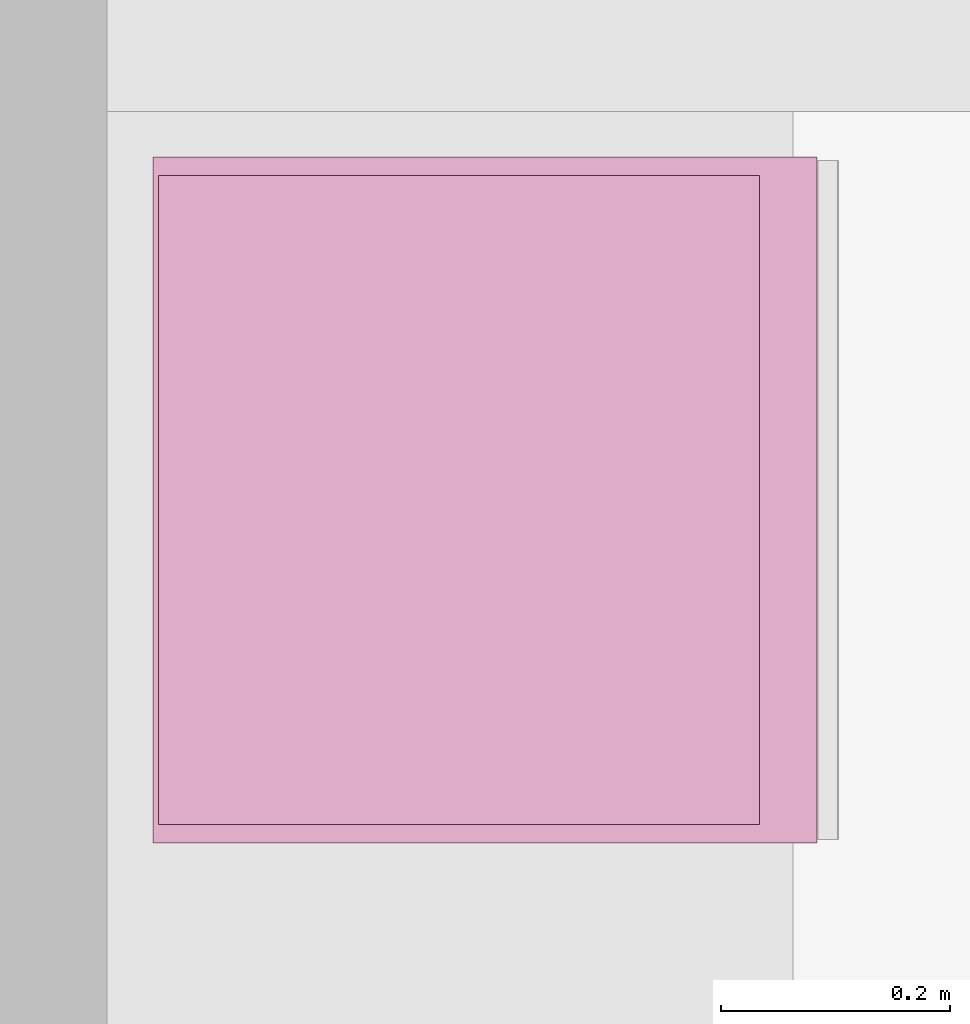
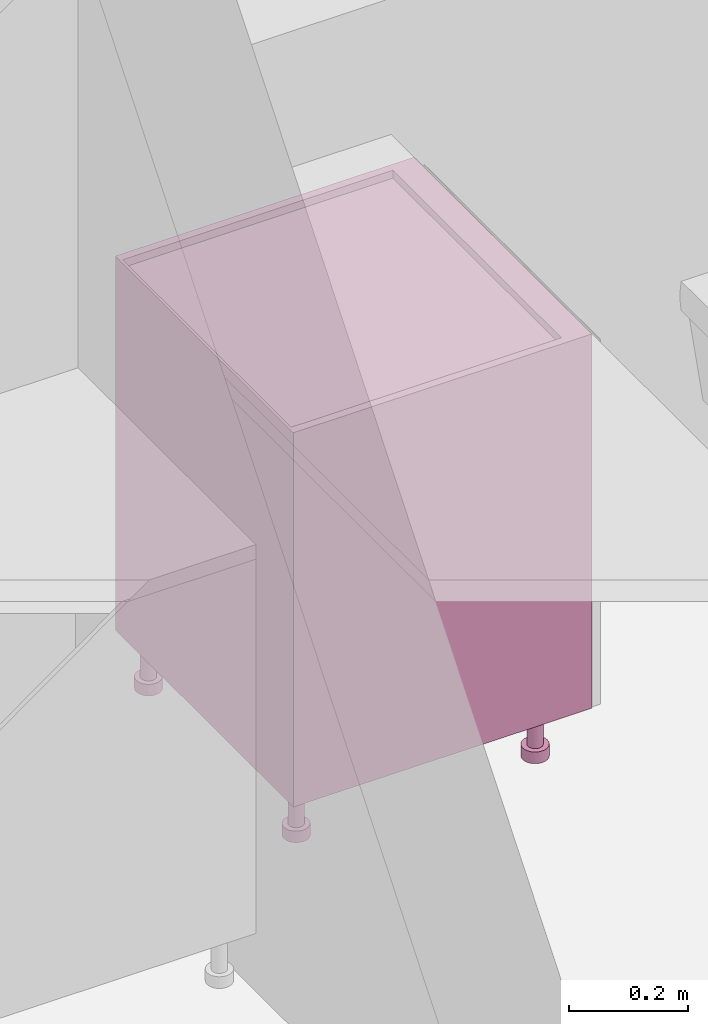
# One storey, part 70 of 125: 1 furnishing.
"""IFC2X3 building model written with IfcOpenShell, lengths in millimetres."""

from ifc_helpers import new_model, entity, si_unit, converted_unit, direction, frame, origin, place, context, subcontext, project, spatial, faceted_brep, source, transform, mapped, material, type_object, type_shapes, element, save


model = new_model("IFC2X3")

# Units and contexts
model_context = context("Model", 3, precision=0.01, world=origin(), true_north=direction((6.123233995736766e-17, 1.0)))
plan_context = context("Plan", 3, precision=0.01, world=origin(), true_north=direction((6.123233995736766e-17, 1.0)))
body_context = subcontext(model_context, "Body", "Model", "MODEL_VIEW")
ifc_project = project(units=[si_unit("LENGTHUNIT", "METRE", prefix="MILLI"), converted_unit("PLANEANGLEUNIT", "DEGREE", entity("IfcPlaneAngleMeasure", 0.017453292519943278), si_unit("PLANEANGLEUNIT", "RADIAN"), dimensions=[0, 0, 0, 0, 0, 0, 0]), si_unit("AREAUNIT", "SQUARE_METRE")], contexts=[model_context, plan_context])

# Site, building, storey, space
site_placement = place(None, origin())
site = spatial("IfcSite", under=ifc_project, at=site_placement, Name="Default", CompositionType="ELEMENT")
building_placement = place(site_placement, origin())
building = spatial("IfcBuilding", under=site, at=building_placement, CompositionType="ELEMENT")
storey_placement = place(building_placement, frame((0.0, 0.0, 3125.0)))
storey = spatial("IfcBuildingStorey", under=building, at=storey_placement, Name="2K", CompositionType="ELEMENT", Elevation=3125.0)
space_placement = place(storey_placement, origin())
space = spatial("IfcSpace", under=storey, at=space_placement, Name="2-2.4", CompositionType="ELEMENT", InteriorOrExteriorSpace="INTERNAL")

# Furnishing
ifc_material = material(Name="<Unnamed>")
furniture_type = type_object("IfcFurnitureType", Name="HR_Casework_Kitchen_Generic_Appliance_v1:Washing Machine", AssemblyPlace="NOTDEFINED", material=ifc_material)
shared_shape = source(origin(), body_context, "Body", "Brep", [
    faceted_brep([(305.7003264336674, -585.7846096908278, -3101.0), (310.6708891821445, -581.9705627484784, -3101.0), (300.70032643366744, -577.1243556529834, -3101.0), (297.32379306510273, -578.5229615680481, -3101.0), (299.91198351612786, -588.1822198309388, -3101.0), (303.59982137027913, -574.8994949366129, -3101.0), (314.4849361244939, -577.0, -3101.0), (305.82468208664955, -572.0, -3101.0), (307.2232880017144, -568.6234666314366, -3101.0), (316.8825462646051, -571.2116570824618, -3101.0), (307.70032643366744, -565.0, -3101.0), (317.7003264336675, -565.0, -3101.0), (307.2232880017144, -561.3765333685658, -3101.0), (316.88254626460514, -558.7883429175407, -3101.0), (305.82468208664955, -558.0, -3101.0), (314.484936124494, -553.0, -3101.0), (303.59982137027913, -555.1005050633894, -3101.0), (310.67088918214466, -548.0294372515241, -3101.0), (300.70032643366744, -552.875644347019, -3101.0), (305.7003264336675, -544.2153903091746, -3101.0), (297.32379306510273, -551.4770384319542, -3101.0), (299.91198351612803, -541.8177801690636, -3101.0), (293.7003264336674, -551.0, -3101.0), (293.70032643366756, -541.0, -3101.0), (290.07685980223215, -551.4770384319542, -3101.0), (287.488669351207, -541.8177801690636, -3101.0), (286.70032643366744, -552.875644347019, -3101.0), (281.7003264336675, -544.2153903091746, -3101.0), (283.80083149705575, -555.1005050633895, -3101.0), (276.7297636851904, -548.029437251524, -3101.0), (281.5759707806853, -558.0, -3101.0), (272.91571674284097, -553.0, -3101.0), (270.51810660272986, -558.7883429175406, -3101.0), (280.1773648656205, -561.3765333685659, -3101.0), (269.7003264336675, -565.0, -3101.0), (279.7003264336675, -565.0, -3101.0), (270.51810660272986, -571.2116570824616, -3101.0), (280.1773648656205, -568.6234666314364, -3101.0), (272.9157167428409, -577.0, -3101.0), (281.57597078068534, -572.0, -3101.0), (276.7297636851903, -581.9705627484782, -3101.0), (283.80083149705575, -574.8994949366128, -3101.0), (281.70032643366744, -585.7846096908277, -3101.0), (286.70032643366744, -577.1243556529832, -3101.0), (287.4886693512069, -588.1822198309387, -3101.0), (290.07685980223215, -578.5229615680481, -3101.0), (293.7003264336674, -589.0, -3101.0), (293.70032643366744, -579.0, -3101.0), (299.91198351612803, -541.8177801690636, -3125.0), (305.7003264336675, -544.2153903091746, -3125.0), (310.67088918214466, -548.0294372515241, -3125.0), (314.484936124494, -553.0, -3125.0), (316.88254626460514, -558.7883429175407, -3125.0), (317.7003264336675, -565.0, -3125.0), (316.8825462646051, -571.2116570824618, -3125.0), (314.4849361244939, -577.0, -3125.0), (310.6708891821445, -581.9705627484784, -3125.0), (305.7003264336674, -585.7846096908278, -3125.0), (299.91198351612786, -588.1822198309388, -3125.0), (293.7003264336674, -589.0, -3125.0), (287.4886693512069, -588.1822198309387, -3125.0), (281.70032643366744, -585.7846096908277, -3125.0), (276.7297636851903, -581.9705627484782, -3125.0), (272.9157167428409, -577.0, -3125.0), (270.51810660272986, -571.2116570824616, -3125.0), (269.7003264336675, -565.0, -3125.0), (270.51810660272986, -558.7883429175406, -3125.0), (272.91571674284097, -553.0, -3125.0), (276.7297636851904, -548.029437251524, -3125.0), (281.7003264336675, -544.2153903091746, -3125.0), (287.488669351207, -541.8177801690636, -3125.0), (293.70032643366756, -541.0, -3125.0), (297.32379306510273, -578.5229615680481, -3025.0), (300.70032643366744, -577.1243556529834, -3025.0), (303.59982137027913, -574.8994949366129, -3025.0), (305.8246820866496, -572.0, -3025.0), (307.2232880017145, -568.6234666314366, -3025.0), (307.70032643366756, -565.0, -3025.0), (307.2232880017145, -561.3765333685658, -3025.0), (305.8246820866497, -558.0, -3025.0), (303.5998213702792, -555.1005050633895, -3025.0), (300.70032643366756, -552.875644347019, -3025.0), (297.32379306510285, -551.4770384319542, -3025.0), (293.70032643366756, -551.0, -3025.0), (290.07685980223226, -551.4770384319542, -3025.0), (286.70032643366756, -552.875644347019, -3025.0), (283.80083149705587, -555.1005050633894, -3025.0), (281.5759707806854, -558.0, -3025.0), (280.1773648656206, -561.3765333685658, -3025.0), (279.70032643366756, -565.0, -3025.0), (280.1773648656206, -568.6234666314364, -3025.0), (281.5759707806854, -572.0, -3025.0), (283.8008314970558, -574.8994949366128, -3025.0), (286.7003264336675, -577.1243556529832, -3025.0), (290.07685980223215, -578.5229615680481, -3025.0), (293.70032643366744, -579.0, -3025.0)], [[[0, 1, 2]], [[0, 2, 3]], [[3, 4, 0]], [[2, 1, 5]], [[6, 5, 1]], [[7, 5, 6]], [[8, 7, 6]], [[8, 6, 9]], [[8, 9, 10]], [[10, 9, 11]], [[12, 10, 11]], [[12, 11, 13]], [[14, 12, 13]], [[14, 13, 15]], [[16, 14, 15]], [[15, 17, 16]], [[17, 18, 16]], [[18, 17, 19]], [[18, 19, 20]], [[21, 20, 19]], [[20, 21, 22]], [[22, 21, 23]], [[23, 24, 22]], [[24, 23, 25]], [[24, 25, 26]], [[27, 26, 25]], [[27, 28, 26]], [[27, 29, 28]], [[30, 28, 29]], [[31, 30, 29]], [[32, 30, 31]], [[33, 30, 32]], [[33, 32, 34]], [[34, 35, 33]], [[36, 35, 34]], [[36, 37, 35]], [[37, 36, 38]], [[39, 37, 38]], [[39, 38, 40]], [[39, 40, 41]], [[40, 42, 41]], [[41, 42, 43]], [[43, 42, 44]], [[44, 45, 43]], [[46, 45, 44]], [[4, 47, 46]], [[45, 46, 47]], [[4, 3, 47]], [[48, 49, 50, 51, 52, 53, 54, 55, 56, 57, 58, 59, 60, 61, 62, 63, 64, 65, 66, 67, 68, 69, 70, 71]], [[64, 36, 34, 65]], [[63, 38, 36, 64]], [[42, 40, 62, 61]], [[63, 62, 40, 38]], [[44, 42, 61, 60]], [[46, 44, 60, 59]], [[58, 4, 46, 59]], [[57, 0, 4, 58]], [[54, 53, 11, 9]], [[1, 0, 57, 56]], [[6, 55, 54, 9]], [[6, 1, 56, 55]], [[52, 13, 11, 53]], [[51, 15, 13, 52]], [[19, 17, 50, 49]], [[51, 50, 17, 15]], [[21, 19, 49, 48]], [[23, 21, 48, 71]], [[27, 69, 68, 29]], [[31, 67, 66, 32]], [[68, 67, 31, 29]], [[32, 66, 65, 34]], [[25, 70, 69, 27]], [[70, 25, 23, 71]], [[72, 73, 74, 75, 76, 77, 78, 79, 80, 81, 82, 83, 84, 85, 86, 87, 88, 89, 90, 91, 92, 93, 94, 95]], [[37, 39, 91, 90]], [[35, 37, 90, 89]], [[43, 45, 94, 93]], [[41, 43, 93, 92]], [[39, 41, 92, 91]], [[47, 95, 94, 45]], [[2, 5, 74, 73]], [[3, 2, 73, 72]], [[8, 10, 77, 76]], [[7, 8, 76, 75]], [[5, 7, 75, 74]], [[3, 72, 95, 47]], [[79, 78, 12, 14]], [[78, 77, 10, 12]], [[80, 16, 18, 81]], [[16, 80, 79, 14]], [[81, 18, 20, 82]], [[22, 83, 82, 20]], [[26, 28, 86, 85]], [[24, 26, 85, 84]], [[33, 35, 89, 88]], [[30, 33, 88, 87]], [[28, 30, 87, 86]], [[24, 84, 83, 22]]]),
    faceted_brep([(-192.29967356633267, -585.7846096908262, -3101.0), (-187.3291108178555, -581.9705627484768, -3101.0), (-197.29967356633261, -577.1243556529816, -3101.0), (-200.67620693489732, -578.5229615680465, -3101.0), (-198.08801648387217, -588.1822198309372, -3101.0), (-194.40017862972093, -574.8994949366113, -3101.0), (-183.51506387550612, -577.0, -3101.0), (-192.17531791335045, -572.0, -3101.0), (-190.77671199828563, -568.6234666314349, -3101.0), (-181.11745373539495, -571.2116570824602, -3101.0), (-190.29967356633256, -565.0, -3101.0), (-180.29967356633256, -565.0, -3101.0), (-190.77671199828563, -561.3765333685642, -3101.0), (-181.11745373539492, -558.788342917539, -3101.0), (-192.17531791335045, -558.0, -3101.0), (-183.515063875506, -553.0, -3101.0), (-194.40017862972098, -555.1005050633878, -3101.0), (-187.3291108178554, -548.0294372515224, -3101.0), (-197.29967356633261, -552.8756443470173, -3101.0), (-192.29967356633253, -544.215390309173, -3101.0), (-200.67620693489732, -551.4770384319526, -3101.0), (-198.08801648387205, -541.8177801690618, -3101.0), (-204.29967356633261, -551.0, -3101.0), (-204.29967356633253, -541.0, -3101.0), (-207.92314019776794, -551.4770384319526, -3101.0), (-210.51133064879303, -541.8177801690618, -3101.0), (-211.29967356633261, -552.8756443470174, -3101.0), (-216.29967356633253, -544.215390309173, -3101.0), (-214.19916850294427, -555.1005050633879, -3101.0), (-221.27023631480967, -548.0294372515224, -3101.0), (-216.42402921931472, -558.0, -3101.0), (-225.08428325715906, -553.0, -3101.0), (-227.48189339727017, -558.788342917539, -3101.0), (-217.8226351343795, -561.3765333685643, -3101.0), (-228.2996735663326, -565.0, -3101.0), (-218.29967356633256, -565.0, -3101.0), (-227.48189339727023, -571.21165708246, -3101.0), (-217.8226351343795, -568.6234666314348, -3101.0), (-225.08428325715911, -577.0, -3101.0), (-216.42402921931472, -572.0, -3101.0), (-221.27023631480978, -581.9705627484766, -3101.0), (-214.19916850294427, -574.8994949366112, -3101.0), (-216.29967356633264, -585.784609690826, -3101.0), (-211.29967356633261, -577.1243556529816, -3101.0), (-210.51133064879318, -588.1822198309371, -3101.0), (-207.9231401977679, -578.5229615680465, -3101.0), (-204.2996735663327, -589.0, -3101.0), (-204.29967356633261, -579.0, -3101.0), (-198.08801648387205, -541.8177801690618, -3125.0), (-192.29967356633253, -544.215390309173, -3125.0), (-187.3291108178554, -548.0294372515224, -3125.0), (-183.515063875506, -553.0, -3125.0), (-181.11745373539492, -558.788342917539, -3125.0), (-180.29967356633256, -565.0, -3125.0), (-181.11745373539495, -571.2116570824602, -3125.0), (-183.51506387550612, -577.0, -3125.0), (-187.3291108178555, -581.9705627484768, -3125.0), (-192.29967356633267, -585.7846096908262, -3125.0), (-198.08801648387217, -588.1822198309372, -3125.0), (-204.2996735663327, -589.0, -3125.0), (-210.51133064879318, -588.1822198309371, -3125.0), (-216.29967356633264, -585.784609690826, -3125.0), (-221.27023631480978, -581.9705627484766, -3125.0), (-225.08428325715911, -577.0, -3125.0), (-227.48189339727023, -571.21165708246, -3125.0), (-228.2996735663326, -565.0, -3125.0), (-227.48189339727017, -558.788342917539, -3125.0), (-225.08428325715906, -553.0, -3125.0), (-221.27023631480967, -548.0294372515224, -3125.0), (-216.29967356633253, -544.215390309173, -3125.0), (-210.51133064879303, -541.8177801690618, -3125.0), (-204.29967356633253, -541.0, -3125.0), (-200.67620693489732, -578.5229615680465, -3025.0), (-197.29967356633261, -577.1243556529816, -3025.0), (-194.40017862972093, -574.8994949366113, -3025.0), (-192.17531791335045, -572.0, -3025.0), (-190.77671199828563, -568.6234666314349, -3025.0), (-190.29967356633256, -565.0, -3025.0), (-190.77671199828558, -561.3765333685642, -3025.0), (-192.1753179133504, -558.0, -3025.0), (-194.40017862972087, -555.1005050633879, -3025.0), (-197.29967356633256, -552.8756443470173, -3025.0), (-200.67620693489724, -551.4770384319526, -3025.0), (-204.29967356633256, -551.0, -3025.0), (-207.92314019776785, -551.4770384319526, -3025.0), (-211.29967356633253, -552.8756443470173, -3025.0), (-214.1991685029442, -555.1005050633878, -3025.0), (-216.4240292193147, -558.0, -3025.0), (-217.8226351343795, -561.3765333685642, -3025.0), (-218.29967356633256, -565.0, -3025.0), (-217.8226351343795, -568.6234666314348, -3025.0), (-216.42402921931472, -572.0, -3025.0), (-214.19916850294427, -574.8994949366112, -3025.0), (-211.2996735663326, -577.1243556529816, -3025.0), (-207.9231401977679, -578.5229615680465, -3025.0), (-204.29967356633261, -579.0, -3025.0)], [[[0, 1, 2]], [[0, 2, 3]], [[3, 4, 0]], [[2, 1, 5]], [[6, 5, 1]], [[7, 5, 6]], [[8, 7, 6]], [[8, 6, 9]], [[8, 9, 10]], [[10, 9, 11]], [[12, 10, 11]], [[12, 11, 13]], [[14, 12, 13]], [[14, 13, 15]], [[16, 14, 15]], [[15, 17, 16]], [[17, 18, 16]], [[18, 17, 19]], [[18, 19, 20]], [[21, 20, 19]], [[20, 21, 22]], [[22, 21, 23]], [[23, 24, 22]], [[24, 23, 25]], [[24, 25, 26]], [[27, 26, 25]], [[27, 28, 26]], [[27, 29, 28]], [[30, 28, 29]], [[31, 30, 29]], [[32, 30, 31]], [[33, 30, 32]], [[33, 32, 34]], [[34, 35, 33]], [[36, 35, 34]], [[36, 37, 35]], [[37, 36, 38]], [[39, 37, 38]], [[39, 38, 40]], [[39, 40, 41]], [[40, 42, 41]], [[41, 42, 43]], [[43, 42, 44]], [[44, 45, 43]], [[46, 45, 44]], [[4, 47, 46]], [[45, 46, 47]], [[4, 3, 47]], [[48, 49, 50, 51, 52, 53, 54, 55, 56, 57, 58, 59, 60, 61, 62, 63, 64, 65, 66, 67, 68, 69, 70, 71]], [[64, 36, 34, 65]], [[63, 38, 36, 64]], [[42, 40, 62, 61]], [[63, 62, 40, 38]], [[44, 42, 61, 60]], [[46, 44, 60, 59]], [[58, 4, 46, 59]], [[57, 0, 4, 58]], [[54, 53, 11, 9]], [[1, 0, 57, 56]], [[6, 55, 54, 9]], [[6, 1, 56, 55]], [[52, 13, 11, 53]], [[51, 15, 13, 52]], [[19, 17, 50, 49]], [[51, 50, 17, 15]], [[21, 19, 49, 48]], [[23, 21, 48, 71]], [[27, 69, 68, 29]], [[31, 67, 66, 32]], [[68, 67, 31, 29]], [[32, 66, 65, 34]], [[25, 70, 69, 27]], [[70, 25, 23, 71]], [[72, 73, 74, 75, 76, 77, 78, 79, 80, 81, 82, 83, 84, 85, 86, 87, 88, 89, 90, 91, 92, 93, 94, 95]], [[37, 39, 91, 90]], [[35, 37, 90, 89]], [[43, 45, 94, 93]], [[41, 43, 93, 92]], [[39, 41, 92, 91]], [[47, 95, 94, 45]], [[2, 5, 74, 73]], [[3, 2, 73, 72]], [[8, 10, 77, 76]], [[7, 8, 76, 75]], [[5, 7, 75, 74]], [[3, 72, 95, 47]], [[79, 78, 12, 14]], [[78, 77, 10, 12]], [[80, 16, 18, 81]], [[16, 80, 79, 14]], [[81, 18, 20, 82]], [[22, 83, 82, 20]], [[26, 28, 86, 85]], [[24, 26, 85, 84]], [[33, 35, 89, 88]], [[30, 33, 88, 87]], [[28, 30, 87, 86]], [[24, 84, 83, 22]]]),
    faceted_brep([(305.70032643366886, -120.78460969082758, -3101.0), (310.670889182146, -116.97056274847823, -3101.0), (300.7003264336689, -112.12435565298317, -3101.0), (297.3237930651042, -113.52296156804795, -3101.0), (299.91198351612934, -123.18221983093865, -3101.0), (303.5998213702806, -109.8994949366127, -3101.0), (314.48493612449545, -112.0, -3101.0), (305.824682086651, -107.0, -3101.0), (307.2232880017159, -103.62346663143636, -3101.0), (316.88254626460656, -106.21165708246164, -3101.0), (307.700326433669, -100.0, -3101.0), (317.700326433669, -100.0, -3101.0), (307.2232880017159, -96.3765333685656, -3101.0), (316.8825462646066, -93.78834291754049, -3101.0), (305.824682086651, -93.0, -3101.0), (314.4849361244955, -88.0, -3101.0), (303.5998213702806, -90.10050506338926, -3101.0), (310.67088918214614, -83.02943725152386, -3101.0), (300.7003264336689, -87.8756443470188, -3101.0), (305.700326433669, -79.21539030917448, -3101.0), (297.3237930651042, -86.477038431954, -3101.0), (299.9119835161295, -76.81778016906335, -3101.0), (293.70032643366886, -86.0, -3101.0), (293.70032643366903, -76.0, -3101.0), (290.0768598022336, -86.47703843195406, -3101.0), (287.4886693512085, -76.81778016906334, -3101.0), (286.7003264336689, -87.87564434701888, -3101.0), (281.700326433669, -79.21539030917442, -3101.0), (283.8008314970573, -90.10050506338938, -3101.0), (276.72976368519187, -83.0294372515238, -3101.0), (281.5759707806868, -93.0, -3101.0), (272.91571674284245, -88.0, -3101.0), (270.51810660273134, -93.78834291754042, -3101.0), (280.177364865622, -96.37653336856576, -3101.0), (269.700326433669, -100.0, -3101.0), (279.700326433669, -100.0, -3101.0), (270.51810660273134, -106.2116570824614, -3101.0), (280.177364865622, -103.62346663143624, -3101.0), (272.9157167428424, -112.0, -3101.0), (281.5759707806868, -107.0, -3101.0), (276.72976368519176, -116.97056274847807, -3101.0), (283.8008314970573, -109.89949493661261, -3101.0), (281.7003264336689, -120.78460969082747, -3101.0), (286.7003264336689, -112.1243556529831, -3101.0), (287.4886693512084, -123.1822198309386, -3101.0), (290.0768598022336, -113.52296156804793, -3101.0), (293.70032643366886, -124.0, -3101.0), (293.7003264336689, -114.0, -3101.0), (299.9119835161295, -76.81778016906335, -3125.0), (305.700326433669, -79.21539030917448, -3125.0), (310.67088918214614, -83.02943725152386, -3125.0), (314.4849361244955, -88.0, -3125.0), (316.8825462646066, -93.78834291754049, -3125.0), (317.700326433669, -100.0, -3125.0), (316.88254626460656, -106.21165708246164, -3125.0), (314.48493612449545, -112.0, -3125.0), (310.670889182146, -116.97056274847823, -3125.0), (305.70032643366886, -120.78460969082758, -3125.0), (299.91198351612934, -123.18221983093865, -3125.0), (293.70032643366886, -124.0, -3125.0), (287.4886693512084, -123.1822198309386, -3125.0), (281.7003264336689, -120.78460969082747, -3125.0), (276.72976368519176, -116.97056274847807, -3125.0), (272.9157167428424, -112.0, -3125.0), (270.51810660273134, -106.2116570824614, -3125.0), (269.700326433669, -100.0, -3125.0), (270.51810660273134, -93.78834291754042, -3125.0), (272.91571674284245, -88.0, -3125.0), (276.72976368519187, -83.0294372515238, -3125.0), (281.700326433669, -79.21539030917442, -3125.0), (287.4886693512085, -76.81778016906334, -3125.0), (293.70032643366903, -76.0, -3125.0), (297.32379306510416, -113.52296156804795, -3025.0), (300.70032643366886, -112.12435565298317, -3025.0), (303.59982137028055, -109.8994949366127, -3025.0), (305.824682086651, -107.0, -3025.0), (307.22328800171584, -103.62346663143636, -3025.0), (307.700326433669, -100.0, -3025.0), (307.2232880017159, -96.3765333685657, -3025.0), (305.82468208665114, -93.0, -3025.0), (303.5998213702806, -90.10050506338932, -3025.0), (300.700326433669, -87.87564434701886, -3025.0), (297.32379306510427, -86.47703843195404, -3025.0), (293.700326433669, -86.0, -3025.0), (290.0768598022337, -86.47703843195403, -3025.0), (286.700326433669, -87.87564434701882, -3025.0), (283.8008314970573, -90.1005050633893, -3025.0), (281.5759707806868, -93.0, -3025.0), (280.177364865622, -96.37653336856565, -3025.0), (279.700326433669, -100.0, -3025.0), (280.177364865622, -103.62346663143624, -3025.0), (281.5759707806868, -107.0, -3025.0), (283.80083149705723, -109.89949493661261, -3025.0), (286.7003264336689, -112.1243556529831, -3025.0), (290.07685980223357, -113.52296156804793, -3025.0), (293.70032643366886, -114.0, -3025.0)], [[[0, 1, 2]], [[0, 2, 3]], [[3, 4, 0]], [[2, 1, 5]], [[6, 5, 1]], [[7, 5, 6]], [[8, 7, 6]], [[8, 6, 9]], [[8, 9, 10]], [[10, 9, 11]], [[12, 10, 11]], [[12, 11, 13]], [[14, 12, 13]], [[14, 13, 15]], [[16, 14, 15]], [[15, 17, 16]], [[17, 18, 16]], [[18, 17, 19]], [[18, 19, 20]], [[21, 20, 19]], [[20, 21, 22]], [[22, 21, 23]], [[23, 24, 22]], [[24, 23, 25]], [[24, 25, 26]], [[27, 26, 25]], [[27, 28, 26]], [[27, 29, 28]], [[30, 28, 29]], [[31, 30, 29]], [[32, 30, 31]], [[33, 30, 32]], [[33, 32, 34]], [[34, 35, 33]], [[36, 35, 34]], [[36, 37, 35]], [[37, 36, 38]], [[39, 37, 38]], [[39, 38, 40]], [[39, 40, 41]], [[40, 42, 41]], [[41, 42, 43]], [[43, 42, 44]], [[44, 45, 43]], [[46, 45, 44]], [[4, 47, 46]], [[45, 46, 47]], [[4, 3, 47]], [[48, 49, 50, 51, 52, 53, 54, 55, 56, 57, 58, 59, 60, 61, 62, 63, 64, 65, 66, 67, 68, 69, 70, 71]], [[64, 36, 34, 65]], [[63, 38, 36, 64]], [[42, 40, 62, 61]], [[63, 62, 40, 38]], [[44, 42, 61, 60]], [[46, 44, 60, 59]], [[58, 4, 46, 59]], [[57, 0, 4, 58]], [[54, 53, 11, 9]], [[1, 0, 57, 56]], [[6, 55, 54, 9]], [[6, 1, 56, 55]], [[52, 13, 11, 53]], [[51, 15, 13, 52]], [[19, 17, 50, 49]], [[51, 50, 17, 15]], [[21, 19, 49, 48]], [[23, 21, 48, 71]], [[27, 69, 68, 29]], [[31, 67, 66, 32]], [[68, 67, 31, 29]], [[32, 66, 65, 34]], [[25, 70, 69, 27]], [[70, 25, 23, 71]], [[72, 73, 74, 75, 76, 77, 78, 79, 80, 81, 82, 83, 84, 85, 86, 87, 88, 89, 90, 91, 92, 93, 94, 95]], [[37, 39, 91, 90]], [[35, 37, 90, 89]], [[43, 45, 94, 93]], [[41, 43, 93, 92]], [[39, 41, 92, 91]], [[47, 95, 94, 45]], [[2, 5, 74, 73]], [[3, 2, 73, 72]], [[8, 10, 77, 76]], [[7, 8, 76, 75]], [[5, 7, 75, 74]], [[3, 72, 95, 47]], [[79, 78, 12, 14]], [[78, 77, 10, 12]], [[80, 16, 18, 81]], [[16, 80, 79, 14]], [[81, 18, 20, 82]], [[22, 83, 82, 20]], [[26, 28, 86, 85]], [[24, 26, 85, 84]], [[33, 35, 89, 88]], [[30, 33, 88, 87]], [[28, 30, 87, 86]], [[24, 84, 83, 22]]]),
    faceted_brep([(-192.299673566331, -120.78460969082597, -3101.0), (-187.3291108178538, -116.97056274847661, -3101.0), (-197.29967356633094, -112.12435565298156, -3101.0), (-200.67620693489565, -113.52296156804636, -3101.0), (-198.0880164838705, -123.18221983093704, -3101.0), (-194.40017862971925, -109.89949493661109, -3101.0), (-183.5150638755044, -112.0, -3101.0), (-192.17531791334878, -107.0, -3101.0), (-190.77671199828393, -103.62346663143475, -3101.0), (-181.11745373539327, -106.21165708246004, -3101.0), (-190.29967356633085, -100.0, -3101.0), (-180.29967356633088, -100.0, -3101.0), (-190.77671199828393, -96.376533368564, -3101.0), (-181.11745373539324, -93.78834291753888, -3101.0), (-192.17531791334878, -93.0, -3101.0), (-183.51506387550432, -88.0, -3101.0), (-194.40017862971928, -90.10050506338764, -3101.0), (-187.32911081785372, -83.02943725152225, -3101.0), (-197.29967356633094, -87.8756443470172, -3101.0), (-192.29967356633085, -79.21539030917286, -3101.0), (-200.67620693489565, -86.4770384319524, -3101.0), (-198.08801648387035, -76.81778016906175, -3101.0), (-204.29967356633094, -86.0, -3101.0), (-204.29967356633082, -76.0, -3101.0), (-207.92314019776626, -86.47703843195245, -3101.0), (-210.51133064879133, -76.81778016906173, -3101.0), (-211.29967356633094, -87.87564434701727, -3101.0), (-216.29967356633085, -79.21539030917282, -3101.0), (-214.19916850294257, -90.10050506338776, -3101.0), (-221.270236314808, -83.0294372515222, -3101.0), (-216.424029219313, -93.0, -3101.0), (-225.08428325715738, -88.0, -3101.0), (-227.4818933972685, -93.78834291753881, -3101.0), (-217.82263513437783, -96.37653336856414, -3101.0), (-228.29967356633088, -100.0, -3101.0), (-218.29967356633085, -100.0, -3101.0), (-227.48189339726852, -106.2116570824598, -3101.0), (-217.82263513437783, -103.62346663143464, -3101.0), (-225.08428325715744, -112.0, -3101.0), (-216.424029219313, -107.0, -3101.0), (-221.27023631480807, -116.97056274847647, -3101.0), (-214.19916850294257, -109.899494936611, -3101.0), (-216.29967356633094, -120.78460969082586, -3101.0), (-211.29967356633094, -112.12435565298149, -3101.0), (-210.51133064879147, -123.18221983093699, -3101.0), (-207.9231401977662, -113.52296156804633, -3101.0), (-204.299673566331, -124.0, -3101.0), (-204.29967356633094, -114.0, -3101.0), (-198.08801648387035, -76.81778016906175, -3125.0), (-192.29967356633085, -79.21539030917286, -3125.0), (-187.32911081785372, -83.02943725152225, -3125.0), (-183.51506387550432, -88.0, -3125.0), (-181.11745373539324, -93.78834291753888, -3125.0), (-180.29967356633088, -100.0, -3125.0), (-181.11745373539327, -106.21165708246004, -3125.0), (-183.5150638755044, -112.0, -3125.0), (-187.3291108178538, -116.97056274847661, -3125.0), (-192.299673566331, -120.78460969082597, -3125.0), (-198.0880164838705, -123.18221983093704, -3125.0), (-204.299673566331, -124.0, -3125.0), (-210.51133064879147, -123.18221983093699, -3125.0), (-216.29967356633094, -120.78460969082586, -3125.0), (-221.27023631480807, -116.97056274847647, -3125.0), (-225.08428325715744, -112.0, -3125.0), (-227.48189339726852, -106.2116570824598, -3125.0), (-228.29967356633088, -100.0, -3125.0), (-227.4818933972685, -93.78834291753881, -3125.0), (-225.08428325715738, -88.0, -3125.0), (-221.270236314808, -83.0294372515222, -3125.0), (-216.29967356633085, -79.21539030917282, -3125.0), (-210.51133064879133, -76.81778016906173, -3125.0), (-204.29967356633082, -76.0, -3125.0), (-200.67620693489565, -113.52296156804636, -3025.0), (-197.29967356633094, -112.12435565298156, -3025.0), (-194.40017862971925, -109.89949493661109, -3025.0), (-192.17531791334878, -107.0, -3025.0), (-190.77671199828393, -103.62346663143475, -3025.0), (-190.29967356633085, -100.0, -3025.0), (-190.7767119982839, -96.3765333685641, -3025.0), (-192.1753179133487, -93.0, -3025.0), (-194.4001786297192, -90.10050506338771, -3025.0), (-197.29967356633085, -87.87564434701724, -3025.0), (-200.67620693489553, -86.47703843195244, -3025.0), (-204.29967356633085, -86.0, -3025.0), (-207.92314019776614, -86.47703843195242, -3025.0), (-211.29967356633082, -87.87564434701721, -3025.0), (-214.1991685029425, -90.10050506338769, -3025.0), (-216.42402921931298, -93.0, -3025.0), (-217.82263513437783, -96.37653336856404, -3025.0), (-218.29967356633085, -100.0, -3025.0), (-217.82263513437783, -103.62346663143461, -3025.0), (-216.424029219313, -107.0, -3025.0), (-214.19916850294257, -109.899494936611, -3025.0), (-211.29967356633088, -112.12435565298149, -3025.0), (-207.9231401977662, -113.52296156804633, -3025.0), (-204.29967356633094, -114.0, -3025.0)], [[[0, 1, 2]], [[0, 2, 3]], [[3, 4, 0]], [[2, 1, 5]], [[6, 5, 1]], [[7, 5, 6]], [[8, 7, 6]], [[8, 6, 9]], [[8, 9, 10]], [[10, 9, 11]], [[12, 10, 11]], [[12, 11, 13]], [[14, 12, 13]], [[14, 13, 15]], [[16, 14, 15]], [[15, 17, 16]], [[17, 18, 16]], [[18, 17, 19]], [[18, 19, 20]], [[21, 20, 19]], [[20, 21, 22]], [[22, 21, 23]], [[23, 24, 22]], [[24, 23, 25]], [[24, 25, 26]], [[27, 26, 25]], [[27, 28, 26]], [[27, 29, 28]], [[30, 28, 29]], [[31, 30, 29]], [[32, 30, 31]], [[33, 30, 32]], [[33, 32, 34]], [[34, 35, 33]], [[36, 35, 34]], [[36, 37, 35]], [[37, 36, 38]], [[39, 37, 38]], [[39, 38, 40]], [[39, 40, 41]], [[40, 42, 41]], [[41, 42, 43]], [[43, 42, 44]], [[44, 45, 43]], [[46, 45, 44]], [[4, 47, 46]], [[45, 46, 47]], [[4, 3, 47]], [[48, 49, 50, 51, 52, 53, 54, 55, 56, 57, 58, 59, 60, 61, 62, 63, 64, 65, 66, 67, 68, 69, 70, 71]], [[64, 36, 34, 65]], [[63, 38, 36, 64]], [[42, 40, 62, 61]], [[63, 62, 40, 38]], [[44, 42, 61, 60]], [[46, 44, 60, 59]], [[58, 4, 46, 59]], [[57, 0, 4, 58]], [[54, 53, 11, 9]], [[1, 0, 57, 56]], [[6, 55, 54, 9]], [[6, 1, 56, 55]], [[52, 13, 11, 53]], [[51, 15, 13, 52]], [[19, 17, 50, 49]], [[51, 50, 17, 15]], [[21, 19, 49, 48]], [[23, 21, 48, 71]], [[27, 69, 68, 29]], [[31, 67, 66, 32]], [[68, 67, 31, 29]], [[32, 66, 65, 34]], [[25, 70, 69, 27]], [[70, 25, 23, 71]], [[72, 73, 74, 75, 76, 77, 78, 79, 80, 81, 82, 83, 84, 85, 86, 87, 88, 89, 90, 91, 92, 93, 94, 95]], [[37, 39, 91, 90]], [[35, 37, 90, 89]], [[43, 45, 94, 93]], [[41, 43, 93, 92]], [[39, 41, 92, 91]], [[47, 95, 94, 45]], [[2, 5, 74, 73]], [[3, 2, 73, 72]], [[8, 10, 77, 76]], [[7, 8, 76, 75]], [[5, 7, 75, 74]], [[3, 72, 95, 47]], [[79, 78, 12, 14]], [[78, 77, 10, 12]], [[80, 16, 18, 81]], [[16, 80, 79, 14]], [[81, 18, 20, 82]], [[22, 83, 82, 20]], [[26, 28, 86, 85]], [[24, 26, 85, 84]], [[33, 35, 89, 88]], [[30, 33, 88, 87]], [[28, 30, 87, 86]], [[24, 84, 83, 22]]]),
    faceted_brep([(328.70032643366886, -19.0, -3009.0), (-239.2996735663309, -19.0, -3009.0), (-239.29967356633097, -595.0, -3009.0), (328.70032643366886, -595.0, -3009.0), (328.70032643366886, -19.0, -3025.0), (328.70032643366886, -595.0, -3025.0), (-239.29967356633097, -595.0, -3025.0), (-239.29967356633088, -19.0, -3025.0)], [[[0, 1, 2, 3]], [[4, 5, 6, 7]], [[1, 0, 4, 7]], [[2, 1, 7, 6]], [[3, 2, 6, 5]], [[0, 3, 5, 4]]]),
    faceted_brep([(-255.29967356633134, -19.0, -2255.0), (-255.2996735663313, -600.0, -2255.0), (344.7003264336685, -600.0, -2255.0), (344.7003264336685, -19.0, -2255.0), (328.70032643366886, -19.0, -2255.0), (328.70032643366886, -595.0, -2255.0), (-239.2996735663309, -595.0, -2255.0), (-239.2996735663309, -19.0, -2255.0), (-255.29967356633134, -19.0, -3025.0), (-239.2996735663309, -19.0, -3025.0), (-239.29967356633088, -595.0, -3025.0), (328.70032643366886, -595.0, -3025.0), (328.70032643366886, -19.0, -3025.0), (344.7003264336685, -19.0, -3025.0), (344.7003264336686, -600.0, -3025.0), (-255.2996735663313, -600.0, -3025.0)], [[[0, 1, 2, 3, 4, 5, 6, 7]], [[8, 9, 10, 11, 12, 13, 14, 15]], [[1, 0, 8, 15]], [[0, 7, 9, 8]], [[7, 6, 10, 9]], [[5, 4, 12, 11]], [[4, 3, 13, 12]], [[3, 2, 14, 13]], [[2, 1, 15, 14]], [[6, 5, 11, 10]]]),
    faceted_brep([(328.70032643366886, -69.0, -2255.0), (328.70032643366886, -19.0, -2255.0), (-239.29967356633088, -19.0, -2255.0), (-239.29967356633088, -69.0, -2255.0), (328.70032643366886, -69.0, -2271.0), (-239.29967356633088, -69.0, -2271.0), (-239.29967356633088, -19.0, -2271.0), (328.70032643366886, -19.0, -2271.0)], [[[0, 1, 2, 3]], [[4, 5, 6, 7]], [[0, 3, 5, 4]], [[3, 2, 6, 5]], [[2, 1, 7, 6]], [[1, 0, 4, 7]]]),
    faceted_brep([(328.7003264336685, -19.0, -2271.0), (-239.29967356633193, -19.0, -2271.0), (-239.2996735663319, -595.0, -2271.0), (328.7003264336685, -595.0, -2271.0), (328.7003264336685, -19.0, -3009.0), (328.7003264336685, -595.0, -3009.0), (-239.2996735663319, -595.0, -3009.0), (-239.2996735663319, -19.0, -3009.0)], [[[0, 1, 2, 3]], [[4, 5, 6, 7]], [[1, 0, 4, 7]], [[2, 1, 7, 6]], [[3, 2, 6, 5]], [[0, 3, 5, 4]]]),
])
type_shapes(furniture_type, [shared_shape])
furnishing_placement = place(space_placement, frame((3984.993534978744, 11221.700326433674, 3125.0), z_axis=(0.0, 0.0, 1.0), x_axis=(0.0, -1.0, 0.0)))
element("IfcFurnishingElement", 1, at=furnishing_placement, inside=space, type_object=furniture_type, material=ifc_material, Name="HR_Casework_Kitchen_Generic_Appliance_v1:Washing Machine", ObjectType="HR_Casework_Kitchen_Generic_Appliance_v1:Washing Machine", context=body_context, shape_type="MappedRepresentation", body=[
    mapped(shared_shape, transform((0.0, 0.0, 0.0), scale=1.0)),
])

save(model, "model.ifc")
